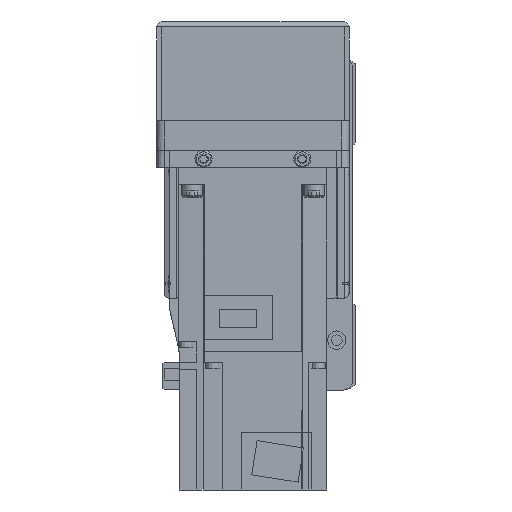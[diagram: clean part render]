
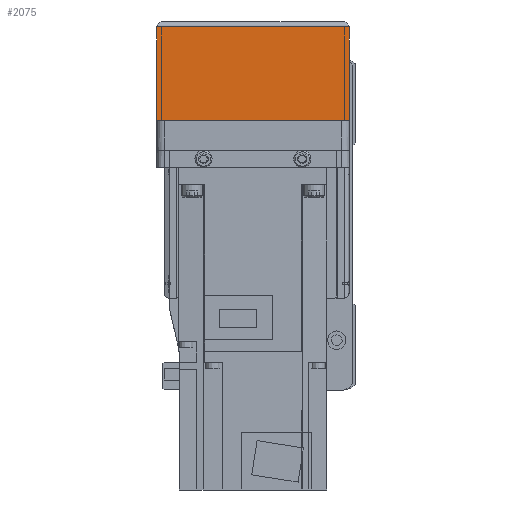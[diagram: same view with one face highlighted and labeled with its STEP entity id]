
A CAD part, left-side view. The second image highlights one B-rep face of the part: STEP entity #2075.
In plain terms, the highlighted planar face has unit normal (-1, 0, 0).
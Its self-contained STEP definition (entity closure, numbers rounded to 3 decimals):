
#2075 = ADVANCED_FACE( '', ( #4949 ), #4950, .F. );
#4949 = FACE_OUTER_BOUND( '', #8876, .T. );
#4950 = PLANE( '', #8877 );
#8876 = EDGE_LOOP( '', ( #14790, #14791, #14792, #14793 ) );
#8877 = AXIS2_PLACEMENT_3D( '', #14794, #14795, #14796 );
#14790 = ORIENTED_EDGE( '', *, *, #21935, .F. );
#14791 = ORIENTED_EDGE( '', *, *, #23456, .F. );
#14792 = ORIENTED_EDGE( '', *, *, #22714, .T. );
#14793 = ORIENTED_EDGE( '', *, *, #23457, .F. );
#14794 = CARTESIAN_POINT( '', ( -158., 36., 7. ) );
#14795 = DIRECTION( '', ( 1., 0., 0. ) );
#14796 = DIRECTION( '', ( 0., 0., -1. ) );
#21935 = EDGE_CURVE( '', #26055, #26057, #26058, .T. );
#22714 = EDGE_CURVE( '', #25628, #27385, #27387, .T. );
#23456 = EDGE_CURVE( '', #25628, #26055, #28590, .T. );
#23457 = EDGE_CURVE( '', #26057, #27385, #28591, .T. );
#25628 = VERTEX_POINT( '', #31471 );
#26055 = VERTEX_POINT( '', #32245 );
#26057 = VERTEX_POINT( '', #32248 );
#26058 = LINE( '', #32249, #32250 );
#27385 = VERTEX_POINT( '', #34305 );
#27387 = LINE( '', #34307, #34308 );
#28590 = LINE( '', #36204, #36205 );
#28591 = LINE( '', #36206, #36207 );
#31471 = CARTESIAN_POINT( '', ( -158., 39., -50. ) );
#32245 = CARTESIAN_POINT( '', ( -158., 39., -12.1 ) );
#32248 = CARTESIAN_POINT( '', ( -158., -39., -12.1 ) );
#32249 = CARTESIAN_POINT( '', ( -158., 50., -12.1 ) );
#32250 = VECTOR( '', #41143, 1000. );
#34305 = CARTESIAN_POINT( '', ( -158., -39., -50. ) );
#34307 = CARTESIAN_POINT( '', ( -158., 40., -50. ) );
#34308 = VECTOR( '', #42129, 1000. );
#36204 = CARTESIAN_POINT( '', ( -158., 39., -50. ) );
#36205 = VECTOR( '', #43068, 1000. );
#36206 = CARTESIAN_POINT( '', ( -158., -39., -12.1 ) );
#36207 = VECTOR( '', #43069, 1000. );
#41143 = DIRECTION( '', ( 0., -1., 0. ) );
#42129 = DIRECTION( '', ( 0., -1., 0. ) );
#43068 = DIRECTION( '', ( 0., 0., 1. ) );
#43069 = DIRECTION( '', ( 0., 0., -1. ) );
